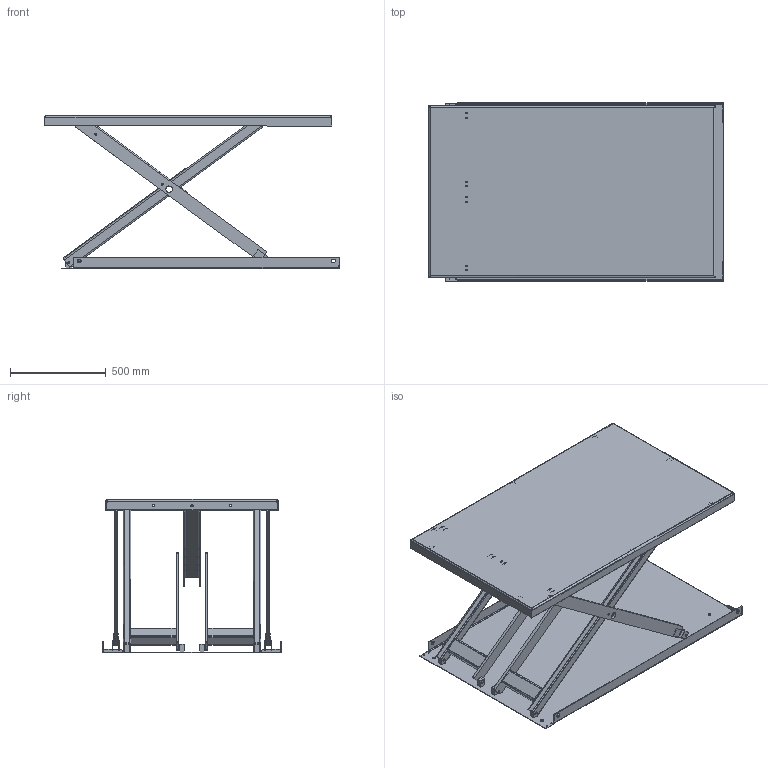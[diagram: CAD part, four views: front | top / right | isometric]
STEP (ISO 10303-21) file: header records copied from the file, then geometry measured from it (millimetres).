
FILE_DESCRIPTION(/* description */ ('TCB 600 (1500x900)'),/* implementation_level */ '2;1');
FILE_NAME(/* name */ 'C:\Autodesk_VaultWork\Ritningar\33245_Raised.stp',/* time_stamp */ '2019-04-09T11:05:11+02:00',/* author */ ('johso'),/* organization */ (''),/* preprocessor_version */ 'ST-DEVELOPER v16.5',/* originating_system */ 'Autodesk Inventor 2017',/* authorisation */ '');
FILE_SCHEMA (('AUTOMOTIVE_DESIGN { 1 0 10303 214 3 1 1 }'));
Length unit declared in the file: millimetre
Products named in the file (22): 33245.tmp; 33247; 35887; 42974; 43469C; 33246C; 514470; 33248-4; 45087; 84207; 44572; 612451; 517432; 33252C; 82170-1245; 517434; 80030 - 236; 517435; 517435-1; 33253C; 33253C-1; 42949C
Assembly tree (43 placements, depth 5):
  33245.tmp
    33247
      35887
      42974  x4
      43469C  x2
    33246C
      514470
      33248-4  x8
      84207  x4
      44572  x3
      45087  x2
    612451
      517432
        33252C  x2
          82170-1245
        517434  x2
        80030 - 236  x2
      517435
        517435-1
      33253C  x2
        33253C-1
        42949C
Bounding box: 1538.05 x 930 x 800.5 mm (x, y, z)
Volume: 19259760.8 mm3; surface area: 8289692.9 mm2
Topology: 38 solids, 38 shells, 1011 faces, 2658 edges, 1728 vertices
Faces by surface type: plane 540, cylinder 411, bspline 32, cone 28
Full cylindrical faces by diameter (mm): 4.7 x4, 6 x4, 8.88 x4, 9.4 x4, 10 x12, 10.1 x2, 10.5 x12, 12.5 x6, 14 x4, 20 x8, 20.1 x2, 26 x2, 34.1 x2, 35 x2, 45 x4, 50.1 x2
Entity records: 20414 total; most frequent: CARTESIAN_POINT 4764, DIRECTION 3150, ORIENTED_EDGE 3074, EDGE_CURVE 1537, AXIS2_PLACEMENT_3D 1083, VERTEX_POINT 1029, LINE 984, VECTOR 984
